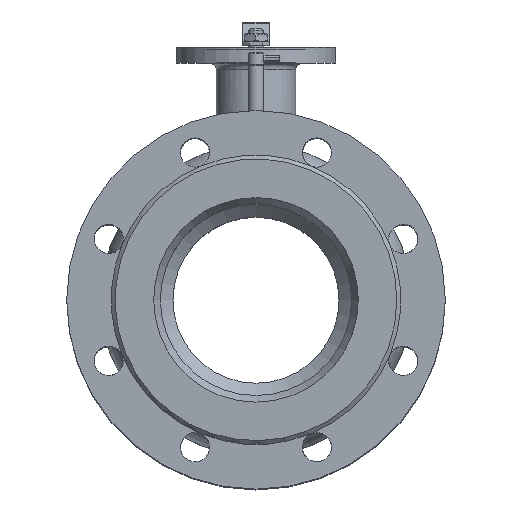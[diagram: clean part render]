
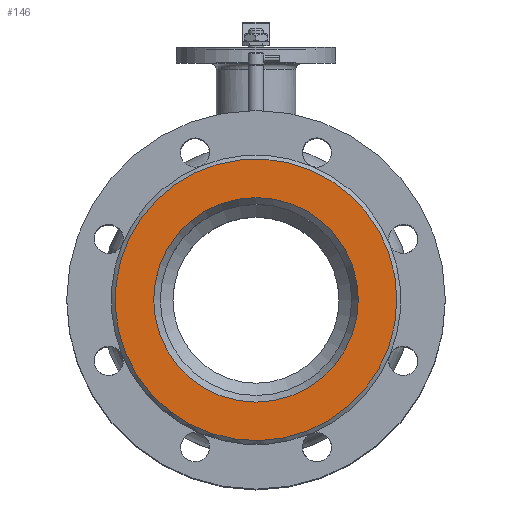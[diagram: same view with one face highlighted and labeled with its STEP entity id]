
A CAD part, top view. The second image highlights one B-rep face of the part: STEP entity #146.
In plain terms, the highlighted planar face has unit normal (0, 0, 1).
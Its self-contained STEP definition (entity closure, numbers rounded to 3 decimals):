
#146=ADVANCED_FACE('',(#2102,#2104),#2106,.F.);
#2102=FACE_BOUND('',#2103,.T.);
#2103=EDGE_LOOP('',(#28692,#28693));
#2104=FACE_BOUND('',#2105,.T.);
#2105=EDGE_LOOP('',(#28694));
#2106=PLANE('',#2107);
#2107=AXIS2_PLACEMENT_3D('',#2108,#2109,#2110);
#2108=CARTESIAN_POINT('',(0.,77.,182.5));
#2109=DIRECTION('',(0.,0.,-1.));
#2110=DIRECTION('',(-1.,0.,0.));
#28692=ORIENTED_EDGE('',*,*,#33695,.T.);
#28693=ORIENTED_EDGE('',*,*,#33694,.T.);
#28694=ORIENTED_EDGE('',*,*,#33704,.F.);
#33694=EDGE_CURVE('',#35975,#35976,#35977,.T.);
#33695=EDGE_CURVE('',#35976,#35975,#35978,.T.);
#33704=EDGE_CURVE('',#35995,#35995,#35996,.T.);
#35975=VERTEX_POINT('',#52756);
#35976=VERTEX_POINT('',#52757);
#35977=CIRCLE('',#52758,106.);
#35978=CIRCLE('',#52762,106.);
#35995=VERTEX_POINT('',#52806);
#35996=CIRCLE('',#52807,77.);
#52756=CARTESIAN_POINT('',(-97.931,-40.564,182.5));
#52757=CARTESIAN_POINT('',(106.,0.,182.5));
#52758=AXIS2_PLACEMENT_3D('',#52759,#52760,#52761);
#52759=CARTESIAN_POINT('',(0.,0.,182.5));
#52760=DIRECTION('',(0.,0.,1.));
#52761=DIRECTION('',(-0.924,-0.383,0.));
#52762=AXIS2_PLACEMENT_3D('',#52763,#52764,#52765);
#52763=CARTESIAN_POINT('',(0.,0.,182.5));
#52764=DIRECTION('',(0.,0.,1.));
#52765=DIRECTION('',(1.,0.,0.));
#52806=CARTESIAN_POINT('',(77.,0.,182.5));
#52807=AXIS2_PLACEMENT_3D('',#52808,#52809,#52810);
#52808=CARTESIAN_POINT('',(0.,0.,182.5));
#52809=DIRECTION('',(0.,0.,1.));
#52810=DIRECTION('',(1.,0.,0.));
